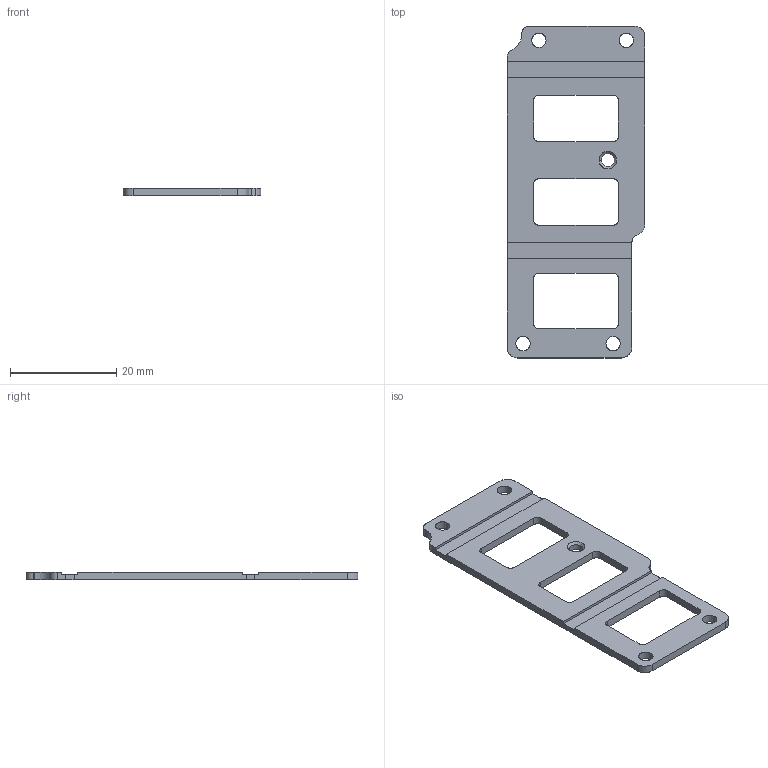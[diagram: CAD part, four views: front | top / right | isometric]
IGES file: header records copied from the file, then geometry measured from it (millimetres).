
Global section: file name: C:\Users\Knabe\Documents\Classes\8 Semester 8\DARwIn\Deliverables\DARwIn OP\DARwIn OP Part Files\CAD 2D\2D IGS\9R_PR13_B_BRKT_PELV_R.igs; native system: NX V7.0; preprocessor: SIEMENS PLM Software NX 7.0; date: 20110525.173129; units: millimetre
Bounding box: 26 x 62.63 x 1.5 mm (x, y, z)
Surface area: 2745.6 mm2 (no closed solid volume)
Topology: 0 solids, 0 shells, 74 faces, 503 edges, 515 vertices
Faces by surface type: bspline 74
